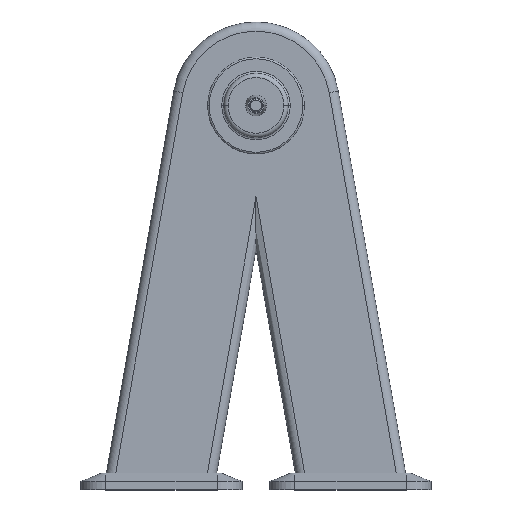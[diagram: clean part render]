
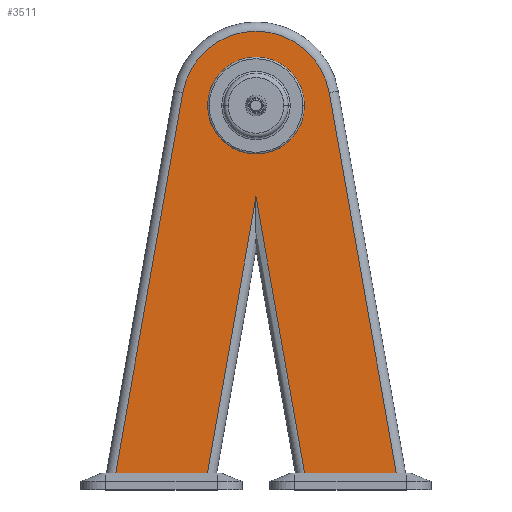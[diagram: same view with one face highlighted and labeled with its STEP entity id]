
A CAD part, top view. The second image highlights one B-rep face of the part: STEP entity #3511.
In plain terms, the highlighted planar face has unit normal (0, 0, 1).
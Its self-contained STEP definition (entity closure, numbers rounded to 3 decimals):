
#8 = DIRECTION ( 'NONE',  ( 0., 0., 1. ) ) ;
#35 = DIRECTION ( 'NONE',  ( -1., 0., 0. ) ) ;
#38 = VERTEX_POINT ( 'NONE', #2554 ) ;
#47 = EDGE_LOOP ( 'NONE', ( #165, #1297 ) ) ;
#106 = CARTESIAN_POINT ( 'NONE',  ( 0., 350.583, 63. ) ) ;
#165 = ORIENTED_EDGE ( 'NONE', *, *, #1249, .F. ) ;
#171 = LINE ( 'NONE', #4262, #1950 ) ;
#194 = CARTESIAN_POINT ( 'NONE',  ( 0., 20., 63. ) ) ;
#195 = VERTEX_POINT ( 'NONE', #1636 ) ;
#200 = CARTESIAN_POINT ( 'NONE',  ( 0., 460., 63. ) ) ;
#219 = DIRECTION ( 'NONE',  ( -1., 0., 0. ) ) ;
#546 = EDGE_CURVE ( 'NONE', #987, #4051, #2465, .T. ) ;
#626 = CARTESIAN_POINT ( 'NONE',  ( 0., 460., 63. ) ) ;
#643 = CARTESIAN_POINT ( 'NONE',  ( 58.291, 20., 63. ) ) ;
#864 = CARTESIAN_POINT ( 'NONE',  ( 0., 460., 63. ) ) ;
#899 = ORIENTED_EDGE ( 'NONE', *, *, #2309, .F. ) ;
#901 = VECTOR ( 'NONE', #3303, 1000. ) ;
#922 = DIRECTION ( 'NONE',  ( 0., 0., 1. ) ) ;
#932 = CARTESIAN_POINT ( 'NONE',  ( 167.957, 20., 63. ) ) ;
#986 = DIRECTION ( 'NONE',  ( 1., 0., 0. ) ) ;
#987 = VERTEX_POINT ( 'NONE', #932 ) ;
#1113 = EDGE_CURVE ( 'NONE', #3075, #4051, #2154, .T. ) ;
#1133 = ORIENTED_EDGE ( 'NONE', *, *, #3537, .T. ) ;
#1136 = FACE_OUTER_BOUND ( 'NONE', #3867, .T. ) ;
#1195 = ORIENTED_EDGE ( 'NONE', *, *, #546, .F. ) ;
#1220 = DIRECTION ( 'NONE',  ( 1., 0., 0. ) ) ;
#1239 = CARTESIAN_POINT ( 'NONE',  ( 87.648, 475.455, 63. ) ) ;
#1249 = EDGE_CURVE ( 'NONE', #1762, #3704, #4126, .T. ) ;
#1270 = PLANE ( 'NONE',  #4283 ) ;
#1297 = ORIENTED_EDGE ( 'NONE', *, *, #4323, .F. ) ;
#1331 = CARTESIAN_POINT ( 'NONE',  ( 64.403, -14.664, 63. ) ) ;
#1401 = ORIENTED_EDGE ( 'NONE', *, *, #3561, .T. ) ;
#1500 = AXIS2_PLACEMENT_3D ( 'NONE', #864, #3228, #1220 ) ;
#1509 = ORIENTED_EDGE ( 'NONE', *, *, #4358, .T. ) ;
#1636 = CARTESIAN_POINT ( 'NONE',  ( -58.291, 20., 63. ) ) ;
#1737 = ORIENTED_EDGE ( 'NONE', *, *, #1113, .T. ) ;
#1762 = VERTEX_POINT ( 'NONE', #3082 ) ;
#1791 = LINE ( 'NONE', #1239, #2680 ) ;
#1895 = CIRCLE ( 'NONE', #1500, 58. ) ;
#1950 = VECTOR ( 'NONE', #2654, 1000. ) ;
#2132 = CARTESIAN_POINT ( 'NONE',  ( 0., 460., 63. ) ) ;
#2154 = LINE ( 'NONE', #1331, #3773 ) ;
#2268 = CARTESIAN_POINT ( 'NONE',  ( 87.648, 475.455, 63. ) ) ;
#2309 = EDGE_CURVE ( 'NONE', #195, #38, #2435, .T. ) ;
#2435 = LINE ( 'NONE', #4081, #3285 ) ;
#2455 = DIRECTION ( 'NONE',  ( 1., 0., 0. ) ) ;
#2465 = LINE ( 'NONE', #194, #3319 ) ;
#2554 = CARTESIAN_POINT ( 'NONE',  ( -167.957, 20., 63. ) ) ;
#2555 = CARTESIAN_POINT ( 'NONE',  ( -87.648, 475.455, 63. ) ) ;
#2566 = VERTEX_POINT ( 'NONE', #2268 ) ;
#2602 = DIRECTION ( 'NONE',  ( -0.174, 0.985, 0. ) ) ;
#2654 = DIRECTION ( 'NONE',  ( 0.174, 0.985, 0. ) ) ;
#2680 = VECTOR ( 'NONE', #2602, 1000. ) ;
#2801 = AXIS2_PLACEMENT_3D ( 'NONE', #626, #3004, #986 ) ;
#2916 = ORIENTED_EDGE ( 'NONE', *, *, #4000, .T. ) ;
#2919 = LINE ( 'NONE', #2983, #901 ) ;
#2983 = CARTESIAN_POINT ( 'NONE',  ( -172.878, -7.91, 63. ) ) ;
#3002 = DIRECTION ( 'NONE',  ( 0.174, -0.985, 0. ) ) ;
#3004 = DIRECTION ( 'NONE',  ( 0., 0., 1. ) ) ;
#3023 = FACE_BOUND ( 'NONE', #47, .T. ) ;
#3075 = VERTEX_POINT ( 'NONE', #106 ) ;
#3082 = CARTESIAN_POINT ( 'NONE',  ( -58., 460., 63. ) ) ;
#3094 = VERTEX_POINT ( 'NONE', #2555 ) ;
#3220 = AXIS2_PLACEMENT_3D ( 'NONE', #2132, #8, #2455 ) ;
#3228 = DIRECTION ( 'NONE',  ( 0., 0., 1. ) ) ;
#3269 = DIRECTION ( 'NONE',  ( 1., 0., 0. ) ) ;
#3285 = VECTOR ( 'NONE', #35, 1000. ) ;
#3303 = DIRECTION ( 'NONE',  ( -0.174, -0.985, 0. ) ) ;
#3319 = VECTOR ( 'NONE', #219, 1000. ) ;
#3511 = ADVANCED_FACE ( 'NONE', ( #3023, #1136 ), #1270, .T. ) ;
#3537 = EDGE_CURVE ( 'NONE', #195, #3075, #171, .T. ) ;
#3561 = EDGE_CURVE ( 'NONE', #3094, #38, #2919, .T. ) ;
#3644 = CIRCLE ( 'NONE', #2801, 89. ) ;
#3704 = VERTEX_POINT ( 'NONE', #4102 ) ;
#3773 = VECTOR ( 'NONE', #3002, 1000. ) ;
#3867 = EDGE_LOOP ( 'NONE', ( #899, #1133, #1737, #1195, #1509, #2916, #1401 ) ) ;
#4000 = EDGE_CURVE ( 'NONE', #2566, #3094, #3644, .T. ) ;
#4051 = VERTEX_POINT ( 'NONE', #643 ) ;
#4081 = CARTESIAN_POINT ( 'NONE',  ( 0., 20., 63. ) ) ;
#4102 = CARTESIAN_POINT ( 'NONE',  ( 58., 460., 63. ) ) ;
#4126 = CIRCLE ( 'NONE', #3220, 58. ) ;
#4262 = CARTESIAN_POINT ( 'NONE',  ( -10.833, 289.147, 63. ) ) ;
#4283 = AXIS2_PLACEMENT_3D ( 'NONE', #200, #922, #3269 ) ;
#4323 = EDGE_CURVE ( 'NONE', #3704, #1762, #1895, .T. ) ;
#4358 = EDGE_CURVE ( 'NONE', #987, #2566, #1791, .T. ) ;
